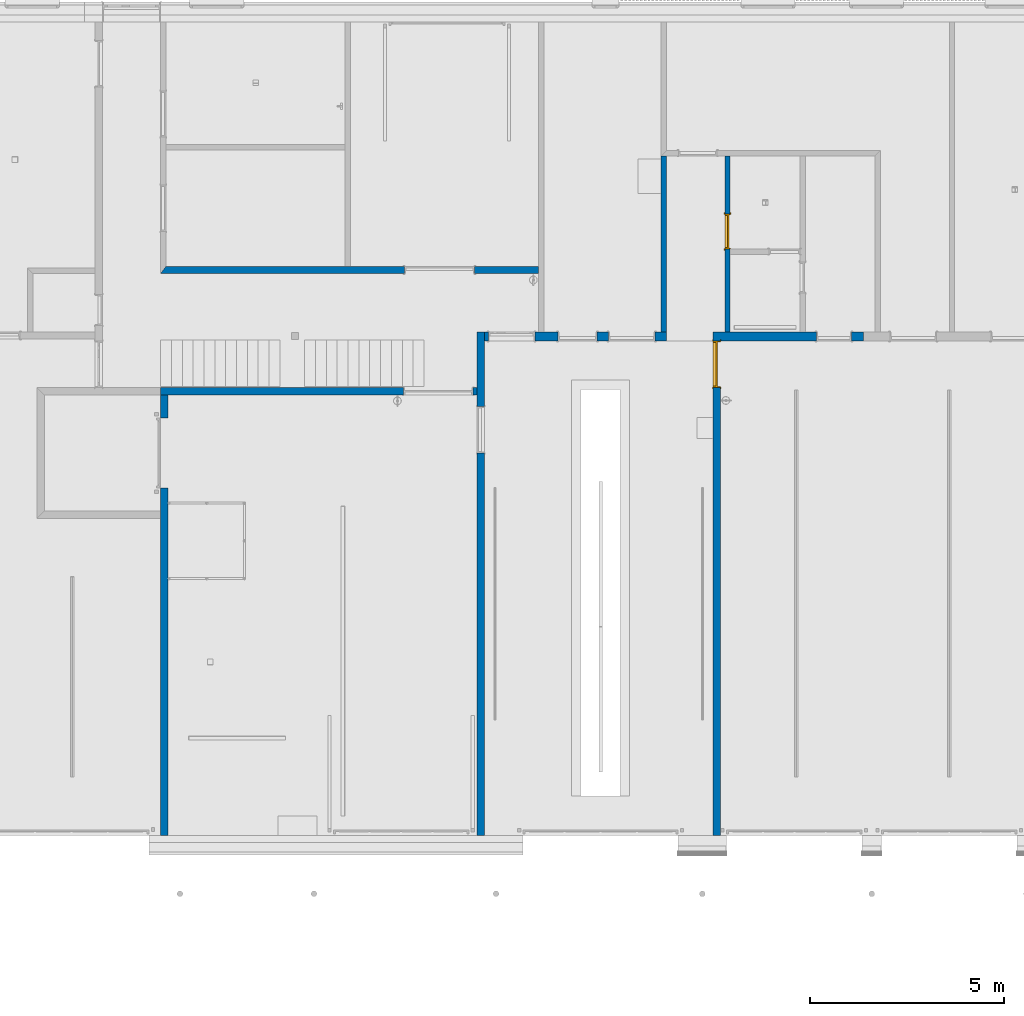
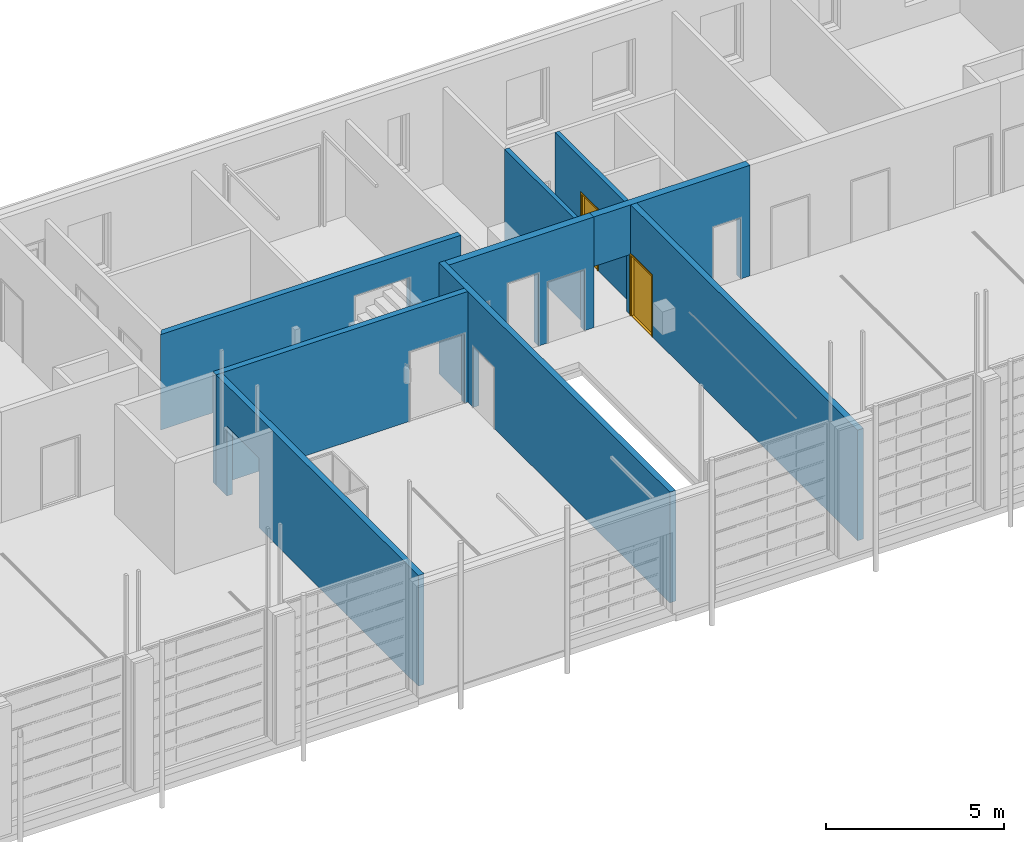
# One storey, part 9 of 112: 9 walls, 2 doors, 11 openings.
"""IFC2X3 building model written with IfcOpenShell, lengths in millimetres."""

from ifc_helpers import new_model, entity, si_unit, converted_unit, derived_unit, money_unit, direction, frame, origin_with_axes, origin_2d_with_axis, place, context, subcontext, project, spatial, polyline, rectangle, outline, extrude, faceted_brep, source, transform, mapped, material, layer, layer_set, layer_usage, type_object, element, fill, save


model = new_model("IFC2X3")

# Units and contexts
model_context = context("Model", 3, precision=0.01, world=origin_with_axes(), true_north=direction((0.0, 1.0)))
body_context = subcontext(model_context, "Body", "Model", "MODEL_VIEW")
ifc_project = project(units=[si_unit("LENGTHUNIT", "METRE", prefix="MILLI"), si_unit("AREAUNIT", "SQUARE_METRE"), si_unit("VOLUMEUNIT", "CUBIC_METRE"), converted_unit("PLANEANGLEUNIT", "DEGREE", entity("IfcPlaneAngleMeasure", 0.0174532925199), si_unit("PLANEANGLEUNIT", "RADIAN"), dimensions=[0, 0, 0, 0, 0, 0, 0]), si_unit("SOLIDANGLEUNIT", "STERADIAN"), money_unit("EUR"), converted_unit("TIMEUNIT", "Year", entity("IfcTimeMeasure", 31556926.0), si_unit("TIMEUNIT", "SECOND"), dimensions=[0, 0, 1, 0, 0, 0, 0]), si_unit("MASSUNIT", "GRAM", prefix="KILO"), si_unit("THERMODYNAMICTEMPERATUREUNIT", "DEGREE_CELSIUS"), si_unit("LUMINOUSINTENSITYUNIT", "LUMEN"), si_unit("ENERGYUNIT", "JOULE", prefix="MEGA"), derived_unit("THERMALCONDUCTANCEUNIT", [(si_unit("POWERUNIT", "WATT"), 1), (si_unit("LENGTHUNIT", "METRE"), -1), (si_unit("THERMODYNAMICTEMPERATUREUNIT", "KELVIN"), -1)]), derived_unit("SPECIFICHEATCAPACITYUNIT", [(si_unit("ENERGYUNIT", "JOULE"), 1), (si_unit("MASSUNIT", "GRAM", prefix="KILO"), -1), (si_unit("THERMODYNAMICTEMPERATUREUNIT", "KELVIN"), -1)]), derived_unit("MASSDENSITYUNIT", [(si_unit("MASSUNIT", "GRAM", prefix="KILO"), 1), (si_unit("VOLUMEUNIT", "CUBIC_METRE"), -1)])], contexts=[model_context])

# Site, building, storey
site_placement = place(None, origin_with_axes())
site = spatial("IfcSite", under=ifc_project, at=site_placement, Name="Politse- ja Piirivalveameti ning Päästeameti ühishoone", CompositionType="ELEMENT")
building_placement = place(site_placement, origin_with_axes())
building = spatial("IfcBuilding", under=site, at=building_placement, Name="Politse- ja Piirivalveameti ning Päästeameti ühishoone", CompositionType="ELEMENT")
storey_placement = place(building_placement, origin_with_axes())
storey = spatial("IfcBuildingStorey", under=building, at=storey_placement, Name="Esimene korrus", CompositionType="ELEMENT", Elevation=0.0)

# Wall, opening
ifc_material = material(Name="KON-05_Betoon Plokk - Konstuktsioon")
ifc_layer_1 = layer(ifc_material, 190.0, ventilated="UNKNOWN")
ifc_layer_set_1 = layer_set([ifc_layer_1], Name="SS-03_Sisesein 190")
ifc_layer_usage_1 = layer_usage(ifc_layer_set_1, "AXIS2", "POSITIVE", -190.0)
wall_type_1 = type_object("IfcWallType", Name="SS-03_Sisesein 190 190", PredefinedType="NOTDEFINED")
wall_1_placement = place(storey_placement, frame((26759.7008828, 13000.0198611, 0.0), z_axis=(0.0, 0.0, 1.0), x_axis=(0.0, -1.0, 0.0)))
wall_1 = element("IfcWallStandardCase", 1, at=wall_1_placement, inside=storey, type_object=wall_type_1, material=ifc_layer_usage_1, Name="SS-03", context=body_context, shape_type="SweptSolid", body=[
    extrude(outline(polyline([(0.0, -190.0), (13000.0198611, -190.0), (13000.0198611, 0.0), (0.0, 0.0), (0.0, -190.0)])), origin_with_axes(), (0.0, 0.0, 1.0), 3800.0),
])
opening_1_placement = place(wall_1_placement, frame((2530.0, 0.0, 0.0), z_axis=(0.0, 0.0, 1.0), x_axis=(1.0, 0.0, 0.0)))
element("IfcOpeningElement", 2, at=opening_1_placement, cuts=wall_1, Name="TU-01-2", context=body_context, shape_type="SweptSolid", body=[
    extrude(rectangle(XDim=1200.0, YDim=2100.0, at=origin_2d_with_axis()), frame((0.0, 190.0, 1050.0), z_axis=(0.0, -1.0, 0.0), x_axis=(-1.0, 0.0, 0.0)), (0.0, 0.0, 1.0), 570.0),
    extrude(rectangle(XDim=1274.0, YDim=2137.0, at=origin_2d_with_axis()), frame((0.0, 0.0, 1068.5), z_axis=(0.0, -1.0, 0.0), x_axis=(-1.0, 0.0, 0.0)), (0.0, 0.0, -1.0), 190.0),
    extrude(rectangle(XDim=1274.0, YDim=2137.0, at=origin_2d_with_axis()), frame((0.0, -190.0, 1068.5), z_axis=(0.0, 1.0, 0.0), x_axis=(-1.0, 0.0, 0.0)), (0.0, 0.0, -1.0), 190.0),
])

ifc_layer_usage_2 = layer_usage(ifc_layer_set_1, "AXIS2", "NEGATIVE", 190.0)
wall_2_placement = place(storey_placement, frame((18400.0881112, 14500.0421528, 0.0), z_axis=(0.0, 0.0, 1.0), x_axis=(1.0, 0.0, 0.0)))
wall_2 = element("IfcWallStandardCase", 3, at=wall_2_placement, inside=storey, type_object=wall_type_1, material=ifc_layer_usage_2, Name="SS-03", context=body_context, shape_type="SweptSolid", body=[
    extrude(outline(polyline([(0.0, 0.0), (9760.41491172, 0.0), (9760.41491172, 190.0), (140.0, 190.0), (0.0, 0.0)])), origin_with_axes(), (0.0, 0.0, 1.0), 3280.0),
])
opening_2_placement = place(wall_2_placement, frame((7199.61277161, 0.0, 0.0), z_axis=(0.0, 0.0, 1.0), x_axis=(1.0, 0.0, 0.0)))
element("IfcOpeningElement", 4, at=opening_2_placement, cuts=wall_2, Name="TU-01-13", context=body_context, shape_type="SweptSolid", body=[
    extrude(rectangle(XDim=1800.0, YDim=2400.0, at=origin_2d_with_axis()), frame((0.0, -190.0, 1200.0), z_axis=(0.0, -1.0, 0.0), x_axis=(-1.0, 0.0, 0.0)), (0.0, 0.0, -1.0), 570.0),
    extrude(rectangle(XDim=1874.0, YDim=2437.0, at=origin_2d_with_axis()), frame((0.0, 0.0, 1218.5), z_axis=(0.0, -1.0, 0.0), x_axis=(-1.0, 0.0, 0.0)), (0.0, 0.0, 1.0), 190.0),
    extrude(rectangle(XDim=1874.0, YDim=2437.0, at=origin_2d_with_axis()), frame((0.0, 190.0, 1218.5), z_axis=(0.0, 1.0, 0.0), x_axis=(-1.0, 0.0, 0.0)), (0.0, 0.0, 1.0), 190.0),
])

ifc_layer_usage_3 = layer_usage(ifc_layer_set_1, "AXIS2", "POSITIVE", -190.0)
wall_3_placement = place(storey_placement, frame((18400.0881112, 11560.0198611, 0.0), z_axis=(0.0, 0.0, 1.0), x_axis=(1.0, 0.0, 0.0)))
wall_3 = element("IfcWallStandardCase", 5, at=wall_3_placement, inside=storey, type_object=wall_type_1, material=ifc_layer_usage_3, Name="SS-03", context=body_context, shape_type="SweptSolid", body=[
    extrude(outline(polyline([(0.0, -190.0), (8169.61277161, -190.0), (8169.61277161, 0.0), (0.0, 0.0), (0.0, -190.0)])), origin_with_axes(), (0.0, 0.0, 1.0), 3800.0),
])
opening_3_placement = place(wall_3_placement, frame((7169.61277161, 0.0, 0.0), z_axis=(0.0, 0.0, 1.0), x_axis=(1.0, 0.0, 0.0)))
element("IfcOpeningElement", 6, at=opening_3_placement, cuts=wall_3, Name="TU-01-13", context=body_context, shape_type="SweptSolid", body=[
    extrude(rectangle(XDim=1800.0, YDim=2400.0, at=origin_2d_with_axis()), frame((0.0, 190.0, 1200.0), z_axis=(0.0, 1.0, 0.0), x_axis=(-1.0, 0.0, 0.0)), (0.0, 0.0, -1.0), 570.0),
    extrude(rectangle(XDim=1874.0, YDim=2437.0, at=origin_2d_with_axis()), frame((0.0, 0.0, 1218.5), z_axis=(0.0, 1.0, 0.0), x_axis=(-1.0, 0.0, 0.0)), (0.0, 0.0, 1.0), 190.0),
    extrude(rectangle(XDim=1874.0, YDim=2437.0, at=origin_2d_with_axis()), frame((0.0, -190.0, 1218.5), z_axis=(0.0, -1.0, 0.0), x_axis=(-1.0, 0.0, 0.0)), (0.0, 0.0, 1.0), 190.0),
])

# Wall, opening, door
ifc_layer_usage_4 = layer_usage(ifc_layer_set_1, "AXIS2", "POSITIVE", -95.0)
wall_4_placement = place(storey_placement, frame((32759.7100495, 13000.0198611, 0.0), z_axis=(0.0, 0.0, 1.0), x_axis=(0.0, -1.0, 0.0)))
wall_4 = element("IfcWallStandardCase", 7, at=wall_4_placement, inside=storey, type_object=wall_type_1, material=ifc_layer_usage_4, Name="SS-03", context=body_context, shape_type="SweptSolid", body=[
    extrude(outline(polyline([(240.0, -95.0), (13000.0198611, -95.0), (13000.0198611, 95.0), (240.0, 95.0), (240.0, -95.0)])), origin_with_axes(), (0.0, 0.0, 1.0), 3800.0),
])
opening_4_placement = place(wall_4_placement, frame((840.0, 0.0, 0.0), z_axis=(0.0, 0.0, 1.0), x_axis=(1.0, 0.0, 0.0)))
opening_4 = element("IfcOpeningElement", 8, at=opening_4_placement, cuts=wall_4, Name="SU-01-8", context=body_context, shape_type="SweptSolid", body=[
    extrude(rectangle(XDim=1200.0, YDim=2100.0, at=origin_2d_with_axis()), frame((0.0, 190.0, 1050.0), z_axis=(0.0, -1.0, 0.0), x_axis=(1.0, 0.0, 0.0)), (0.0, 0.0, 1.0), 570.0),
    extrude(rectangle(XDim=1274.0, YDim=2137.0, at=origin_2d_with_axis()), frame((0.0, 95.0, 1068.5), z_axis=(0.0, -1.0, 0.0), x_axis=(1.0, 0.0, 0.0)), (0.0, 0.0, -1.0), 190.0),
    extrude(rectangle(XDim=1274.0, YDim=2137.0, at=origin_2d_with_axis()), frame((0.0, -95.0, 1068.5), z_axis=(0.0, 1.0, 0.0), x_axis=(1.0, 0.0, 0.0)), (0.0, 0.0, -1.0), 190.0),
])
door_style_1 = type_object("IfcDoorStyle", Name="Double Door Asymmetric 23", ConstructionType="NOTDEFINED", OperationType="DOUBLE_DOOR_SINGLE_SWING", ParameterTakesPrecedence=False, Sizeable=False)
shared_shape_1 = source(origin_with_axes(), body_context, "Body", "Brep", [
    faceted_brep([(560.0, -115.0, 0.0), (560.0, -40.0, 0.0), (560.0, -40.0, 12.0), (560.0, -115.0, 12.0), (-560.0, -115.0, 0.0), (-560.0, -40.0, 0.0), (-572.0, -40.0, 0.0), (572.0, -40.0, 0.0), (572.0, -40.0, 12.0), (-572.0, -40.0, 12.0), (-560.0, -40.0, 12.0), (-560.0, -115.0, 12.0)], [[[0, 1, 2, 3]], [[0, 4, 5, 6, 7, 1]], [[1, 7, 8, 2]], [[3, 2, 8, 9, 10, 11]], [[4, 0, 3, 11]], [[5, 4, 11, 10]], [[6, 5, 10, 9]], [[7, 6, 9, 8]]]),
    faceted_brep([(-600.0, 0.0, 0.0), (-600.0, 75.0, 0.0), (-575.0, 75.0, 0.0), (-575.0, 0.0, 0.0), (-600.0, 0.0, 2100.0), (-600.0, 75.0, 2100.0), (-575.0, 75.0, 2075.0), (-575.0, 0.0, 2075.0)], [[[0, 1, 2, 3]], [[4, 5, 1, 0]], [[1, 5, 6, 2]], [[3, 2, 6, 7]], [[0, 3, 7, 4]], [[7, 6, 5, 4]]]),
    faceted_brep([(600.0, 0.0, 2100.0), (600.0, 75.0, 2100.0), (575.0, 75.0, 2075.0), (575.0, 0.0, 2075.0), (600.0, 0.0, 0.0), (600.0, 75.0, 0.0), (575.0, 75.0, 0.0), (575.0, 0.0, 0.0)], [[[0, 1, 2, 3]], [[4, 5, 1, 0]], [[1, 5, 6, 2]], [[3, 2, 6, 7]], [[0, 3, 7, 4]], [[7, 6, 5, 4]]]),
    faceted_brep([(-575.0, 0.0, 2075.0), (-575.0, 75.0, 2075.0), (575.0, 75.0, 2075.0), (575.0, 0.0, 2075.0), (-600.0, 0.0, 2100.0), (-600.0, 75.0, 2100.0), (600.0, 75.0, 2100.0), (600.0, 0.0, 2100.0)], [[[0, 1, 2, 3]], [[4, 5, 1, 0]], [[1, 5, 6, 2]], [[3, 2, 6, 7]], [[0, 3, 7, 4]], [[7, 6, 5, 4]]]),
    faceted_brep([(-637.0, 94.0, 0.0), (-587.0, 94.0, 0.0), (-587.0, 75.0, 0.0), (-637.0, 75.0, 0.0), (-637.0, 94.0, 2137.0), (-587.0, 94.0, 2087.0), (-587.0, 75.0, 2087.0), (-637.0, 75.0, 2137.0)], [[[0, 1, 2, 3]], [[0, 4, 5, 1]], [[1, 5, 6, 2]], [[3, 2, 6, 7]], [[4, 0, 3, 7]], [[5, 4, 7, 6]]]),
    faceted_brep([(637.0, 94.0, 2137.0), (587.0, 94.0, 2087.0), (587.0, 75.0, 2087.0), (637.0, 75.0, 2137.0), (637.0, 94.0, 0.0), (587.0, 94.0, 0.0), (587.0, 75.0, 0.0), (637.0, 75.0, 0.0)], [[[0, 1, 2, 3]], [[0, 4, 5, 1]], [[1, 5, 6, 2]], [[3, 2, 6, 7]], [[4, 0, 3, 7]], [[5, 4, 7, 6]]]),
    faceted_brep([(-637.0, 94.0, 2137.0), (-587.0, 94.0, 2087.0), (-587.0, 75.0, 2087.0), (-637.0, 75.0, 2137.0), (637.0, 94.0, 2137.0), (587.0, 94.0, 2087.0), (587.0, 75.0, 2087.0), (637.0, 75.0, 2137.0)], [[[0, 1, 2, 3]], [[0, 4, 5, 1]], [[1, 5, 6, 2]], [[3, 2, 6, 7]], [[4, 0, 3, 7]], [[5, 4, 7, 6]]]),
    faceted_brep([(-637.0, -134.0, 0.0), (-637.0, -115.0, 0.0), (-587.0, -115.0, 0.0), (-587.0, -134.0, 0.0), (-637.0, -134.0, 2137.0), (-637.0, -115.0, 2137.0), (-587.0, -115.0, 2087.0), (-587.0, -134.0, 2087.0)], [[[0, 1, 2, 3]], [[4, 5, 1, 0]], [[1, 5, 6, 2]], [[3, 2, 6, 7]], [[0, 3, 7, 4]], [[7, 6, 5, 4]]]),
    faceted_brep([(637.0, -134.0, 2137.0), (637.0, -115.0, 2137.0), (587.0, -115.0, 2087.0), (587.0, -134.0, 2087.0), (637.0, -134.0, 0.0), (637.0, -115.0, 0.0), (587.0, -115.0, 0.0), (587.0, -134.0, 0.0)], [[[0, 1, 2, 3]], [[4, 5, 1, 0]], [[1, 5, 6, 2]], [[3, 2, 6, 7]], [[0, 3, 7, 4]], [[7, 6, 5, 4]]]),
    faceted_brep([(-637.0, -134.0, 2137.0), (-637.0, -115.0, 2137.0), (-587.0, -115.0, 2087.0), (-587.0, -134.0, 2087.0), (637.0, -134.0, 2137.0), (637.0, -115.0, 2137.0), (587.0, -115.0, 2087.0), (587.0, -134.0, 2087.0)], [[[0, 1, 2, 3]], [[4, 5, 1, 0]], [[1, 5, 6, 2]], [[3, 2, 6, 7]], [[0, 3, 7, 4]], [[7, 6, 5, 4]]]),
    faceted_brep([(-560.0, -40.0, 0.0), (-560.0, -40.0, 2060.0), (-560.0, -115.0, 2060.0), (-560.0, -115.0, 0.0), (-572.0, -40.0, 2060.0), (-572.0, -40.0, 0.0), (-572.0, 0.0, 2060.0), (-600.0, 0.0, 2060.0), (-600.0, -115.0, 2060.0), (-600.0, -115.0, 0.0), (-600.0, 0.0, 0.0), (-572.0, 0.0, 0.0)], [[[0, 1, 2, 3]], [[4, 1, 0, 5]], [[4, 6, 7, 8, 2, 1]], [[3, 2, 8, 9]], [[5, 0, 3, 9, 10, 11]], [[6, 4, 5, 11]], [[6, 11, 10, 7]], [[10, 9, 8, 7]]]),
    faceted_brep([(572.0, -40.0, 2060.0), (560.0, -40.0, 2060.0), (560.0, -115.0, 2060.0), (600.0, -115.0, 2060.0), (600.0, 0.0, 2060.0), (572.0, 0.0, 2060.0), (572.0, -40.0, 0.0), (560.0, -40.0, 0.0), (560.0, -115.0, 0.0), (600.0, -115.0, 0.0), (600.0, 0.0, 0.0), (572.0, 0.0, 0.0)], [[[0, 1, 2, 3, 4, 5]], [[1, 0, 6, 7]], [[1, 7, 8, 2]], [[3, 2, 8, 9]], [[4, 3, 9, 10]], [[11, 5, 4, 10]], [[0, 5, 11, 6]], [[6, 11, 10, 9, 8, 7]]]),
    faceted_brep([(-572.0, 0.0, 2072.0), (-572.0, 0.0, 2060.0), (-600.0, 0.0, 2060.0), (-600.0, 0.0, 2100.0), (600.0, 0.0, 2100.0), (600.0, 0.0, 2060.0), (572.0, 0.0, 2060.0), (572.0, 0.0, 2072.0), (-572.0, -40.0, 2072.0), (-572.0, -40.0, 2060.0), (-560.0, -40.0, 2060.0), (-560.0, -115.0, 2060.0), (-600.0, -115.0, 2060.0), (-600.0, -115.0, 2100.0), (600.0, -115.0, 2100.0), (600.0, -115.0, 2060.0), (572.0, -40.0, 2060.0), (560.0, -115.0, 2060.0), (560.0, -40.0, 2060.0), (572.0, -40.0, 2072.0)], [[[0, 1, 2, 3, 4, 5, 6, 7]], [[1, 0, 8, 9]], [[9, 10, 11, 12, 2, 1]], [[2, 12, 13, 3]], [[3, 13, 14, 4]], [[4, 14, 15, 5]], [[16, 6, 5, 15, 17, 18]], [[7, 6, 16, 19]], [[0, 7, 19, 8]], [[16, 18, 10, 9, 8, 19]], [[10, 18, 17, 11]], [[17, 15, 14, 13, 12, 11]]]),
    faceted_brep([(572.0, 0.0, 0.0), (572.0, -40.0, 0.0), (272.0, -40.0, 0.0), (272.0, 0.0, 0.0), (572.0, 0.0, 2072.0), (572.0, -40.0, 2072.0), (272.0, -40.0, 2072.0), (272.0, 0.0, 2072.0)], [[[0, 1, 2, 3]], [[4, 5, 1, 0]], [[1, 5, 6, 2]], [[3, 2, 6, 7]], [[0, 3, 7, 4]], [[7, 6, 5, 4]]]),
    faceted_brep([(-572.0, 0.0, 0.0), (272.0, 0.0, 0.0), (272.0, -40.0, 0.0), (-572.0, -40.0, 0.0), (-572.0, 0.0, 2072.0), (272.0, 0.0, 2072.0), (272.0, -40.0, 2072.0), (-572.0, -40.0, 2072.0)], [[[0, 1, 2, 3]], [[0, 4, 5, 1]], [[1, 5, 6, 2]], [[3, 2, 6, 7]], [[4, 0, 3, 7]], [[5, 4, 7, 6]]]),
])
door_1_placement = place(opening_4_placement, frame((-600.0, 0.0, 0.0), z_axis=(0.0, 0.0, 1.0), x_axis=(1.0, 0.0, 0.0)))
door_1 = element("IfcDoor", 9, at=door_1_placement, inside=storey, type_object=door_style_1, Name="SU-01-8", ObjectType="DOOR", OverallHeight=2100.0, OverallWidth=1200.0, context=body_context, shape_type="MappedRepresentation", body=[
    mapped(shared_shape_1, transform((600.0, 20.0, 0.0))),
])
fill(opening_4, door_1)

# Wall, opening
ifc_layer_usage_5 = layer_usage(ifc_layer_set_1, "AXIS2", "NEGATIVE", 190.0)
wall_5_placement = place(storey_placement, frame((18400.0881112, 11560.0198611, 0.0), z_axis=(0.0, 0.0, 1.0), x_axis=(0.0, -1.0, 0.0)))
wall_5 = element("IfcWallStandardCase", 10, at=wall_5_placement, inside=storey, type_object=wall_type_1, material=ifc_layer_usage_5, Name="SS-03", context=body_context, shape_type="SweptSolid", body=[
    extrude(outline(polyline([(190.0, 0.0), (11560.0198611, 0.0), (11560.0198611, 190.0), (190.0, 190.0), (190.0, 0.0)])), origin_with_axes(), (0.0, 0.0, 1.0), 3800.0),
])
opening_5_placement = place(wall_5_placement, frame((1689.87986678, 0.0, 0.0), z_axis=(0.0, 0.0, 1.0), x_axis=(1.0, 0.0, 0.0)))
element("IfcOpeningElement", 11, at=opening_5_placement, cuts=wall_5, Name="TV-06", context=body_context, shape_type="SweptSolid", body=[
    extrude(rectangle(XDim=1800.0, YDim=2400.0, at=origin_2d_with_axis()), frame((0.0, -10.0, 1200.0), z_axis=(0.0, -1.0, 0.0), x_axis=(1.0, 0.0, 0.0)), (0.0, 0.0, -1.0), 390.0),
    extrude(outline(polyline([(-900.0, 4800.0), (-900.0, 2400.0), (900.0, 2400.0), (900.0, 4800.0), (-900.0, 4800.0)])), frame((0.0, -60.0, 0.0), z_axis=(0.0, -1.0, 0.0), x_axis=(1.0, 0.0, 0.0)), (0.0, 0.0, 1.0), 45.0),
    extrude(rectangle(XDim=1800.0, YDim=2400.0, at=origin_2d_with_axis()), frame((0.0, -10.0, 1200.0), z_axis=(0.0, 1.0, 0.0), x_axis=(1.0, 0.0, 0.0)), (0.0, 0.0, -1.0), 200.0),
])

# Wall, openings
ifc_layer_2 = layer(ifc_material, 240.0, ventilated="UNKNOWN")
ifc_layer_set_2 = layer_set([ifc_layer_2], Name="SS-04_Sisesein 240")
ifc_layer_usage_6 = layer_usage(ifc_layer_set_2, "AXIS2", "NEGATIVE", 0.0)
wall_type_2 = type_object("IfcWallType", Name="SS-04_Sisesein 240 240", PredefinedType="NOTDEFINED")
wall_6_placement = place(storey_placement, frame((26759.7008828, 13000.0198611, 0.0), z_axis=(0.0, 0.0, 1.0), x_axis=(1.0, 0.0, 0.0)))
wall_6 = element("IfcWallStandardCase", 12, at=wall_6_placement, inside=storey, type_object=wall_type_2, material=ifc_layer_usage_6, Name="SS-04", context=body_context, shape_type="SweptSolid", body=[
    extrude(outline(polyline([(0.0, -240.0), (4705.00916667, -240.0), (4705.00916667, 0.0), (0.0, 0.0), (0.0, -240.0)])), origin_with_axes(), (0.0, 0.0, 1.0), 3800.0),
])
opening_6_placement = place(wall_6_placement, frame((699.995165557, 0.0, 0.0), z_axis=(0.0, 0.0, 1.0), x_axis=(1.0, 0.0, 0.0)))
element("IfcOpeningElement", 13, at=opening_6_placement, cuts=wall_6, Name="TU-01-1", context=body_context, shape_type="SweptSolid", body=[
    extrude(rectangle(XDim=1200.0, YDim=2100.0, at=origin_2d_with_axis()), frame((0.0, -240.0, 1050.0), z_axis=(0.0, -1.0, 0.0), x_axis=(-1.0, 0.0, 0.0)), (0.0, 0.0, -1.0), 720.0),
    extrude(rectangle(XDim=1274.0, YDim=2137.0, at=origin_2d_with_axis()), frame((0.0, -240.0, 1068.5), z_axis=(0.0, -1.0, 0.0), x_axis=(-1.0, 0.0, 0.0)), (0.0, 0.0, 1.0), 240.0),
    extrude(rectangle(XDim=1274.0, YDim=2137.0, at=origin_2d_with_axis()), frame((0.0, 0.0, 1068.5), z_axis=(0.0, 1.0, 0.0), x_axis=(-1.0, 0.0, 0.0)), (0.0, 0.0, 1.0), 240.0),
])
opening_7_placement = place(wall_6_placement, frame((3805.23795516, 0.0, 0.0), z_axis=(0.0, 0.0, 1.0), x_axis=(1.0, 0.0, 0.0)))
element("IfcOpeningElement", 14, at=opening_7_placement, cuts=wall_6, Name="TU-01-2", context=body_context, shape_type="SweptSolid", body=[
    extrude(rectangle(XDim=1200.0, YDim=2100.0, at=origin_2d_with_axis()), frame((0.0, 240.0, 1050.0), z_axis=(0.0, -1.0, 0.0), x_axis=(-1.0, 0.0, 0.0)), (0.0, 0.0, 1.0), 720.0),
    extrude(rectangle(XDim=1274.0, YDim=2137.0, at=origin_2d_with_axis()), frame((0.0, 0.0, 1068.5), z_axis=(0.0, -1.0, 0.0), x_axis=(-1.0, 0.0, 0.0)), (0.0, 0.0, -1.0), 240.0),
    extrude(rectangle(XDim=1274.0, YDim=2137.0, at=origin_2d_with_axis()), frame((0.0, -240.0, 1068.5), z_axis=(0.0, 1.0, 0.0), x_axis=(-1.0, 0.0, 0.0)), (0.0, 0.0, -1.0), 240.0),
])
opening_8_placement = place(wall_6_placement, frame((2404.80595956, 0.0, 0.0), z_axis=(0.0, 0.0, 1.0), x_axis=(1.0, 0.0, 0.0)))
element("IfcOpeningElement", 15, at=opening_8_placement, cuts=wall_6, Name="TU-01-12", context=body_context, shape_type="SweptSolid", body=[
    extrude(rectangle(XDim=1000.0, YDim=2500.0, at=origin_2d_with_axis()), frame((0.0, 240.0, 1250.0), z_axis=(0.0, -1.0, 0.0), x_axis=(-1.0, 0.0, 0.0)), (0.0, 0.0, 1.0), 720.0),
    extrude(rectangle(XDim=1074.0, YDim=2537.0, at=origin_2d_with_axis()), frame((0.0, 0.0, 1268.5), z_axis=(0.0, -1.0, 0.0), x_axis=(-1.0, 0.0, 0.0)), (0.0, 0.0, -1.0), 240.0),
    extrude(rectangle(XDim=1074.0, YDim=2537.0, at=origin_2d_with_axis()), frame((0.0, -240.0, 1268.5), z_axis=(0.0, 1.0, 0.0), x_axis=(-1.0, 0.0, 0.0)), (0.0, 0.0, -1.0), 240.0),
])

ifc_layer_usage_7 = layer_usage(ifc_layer_set_2, "AXIS2", "NEGATIVE", 0.0)
wall_7_placement = place(storey_placement, frame((31464.7100495, 13000.0198611, 0.0), z_axis=(0.0, 0.0, 1.0), x_axis=(1.0, 0.0, 0.0)))
wall_7 = element("IfcWallStandardCase", 16, at=wall_7_placement, inside=storey, type_object=wall_type_2, material=ifc_layer_usage_7, Name="SS-04", context=body_context, shape_type="SweptSolid", body=[
    extrude(outline(polyline([(0.0, -240.0), (5079.90466033, -240.0), (5079.90466033, 0.0), (0.0, 0.0), (0.0, -240.0)])), origin_with_axes(), (0.0, 0.0, 1.0), 3800.0),
])
opening_9_placement = place(wall_7_placement, frame((600.0, 0.0, 0.0), z_axis=(0.0, 0.0, 1.0), x_axis=(1.0, 0.0, 0.0)))
element("IfcOpeningElement", 17, at=opening_9_placement, cuts=wall_7, Name="TÜHI AVA", context=body_context, shape_type="SweptSolid", body=[
    extrude(rectangle(XDim=1200.0, YDim=2100.0, at=origin_2d_with_axis()), frame((0.0, 240.0, 1050.0), z_axis=(0.0, -1.0, 0.0), x_axis=(1.0, 0.0, 0.0)), (0.0, 0.0, 1.0), 720.0),
])
opening_10_placement = place(wall_7_placement, frame((4320.26560712, 0.0, 0.0), z_axis=(0.0, 0.0, 1.0), x_axis=(1.0, 0.0, 0.0)))
element("IfcOpeningElement", 18, at=opening_10_placement, cuts=wall_7, Name="SU-01-1", context=body_context, shape_type="SweptSolid", body=[
    extrude(rectangle(XDim=900.0, YDim=2100.0, at=origin_2d_with_axis()), frame((0.0, 240.0, 1050.0), z_axis=(0.0, 1.0, 0.0), x_axis=(1.0, 0.0, 0.0)), (0.0, 0.0, -1.0), 720.0),
    extrude(rectangle(XDim=974.0, YDim=2137.0, at=origin_2d_with_axis()), frame((0.0, 0.0, 1068.5), z_axis=(0.0, 1.0, 0.0), x_axis=(1.0, 0.0, 0.0)), (0.0, 0.0, 1.0), 240.0),
    extrude(rectangle(XDim=974.0, YDim=2137.0, at=origin_2d_with_axis()), frame((0.0, -240.0, 1068.5), z_axis=(0.0, -1.0, 0.0), x_axis=(1.0, 0.0, 0.0)), (0.0, 0.0, 1.0), 240.0),
])

# Wall, opening, door
ifc_layer_3 = layer(ifc_material, 140.0, ventilated="UNKNOWN")
ifc_layer_set_3 = layer_set([ifc_layer_3], Name="SS-02_Sisesein 140")
ifc_layer_usage_8 = layer_usage(ifc_layer_set_3, "AXIS2", "POSITIVE", 0.0)
wall_type_3 = type_object("IfcWallType", Name="SS-02_Sisesein 140 140", PredefinedType="NOTDEFINED")
wall_8_placement = place(storey_placement, frame((32964.7100495, 17540.0198611, 0.0), z_axis=(0.0, 0.0, 1.0), x_axis=(0.0, -1.0, 0.0)))
wall_8 = element("IfcWallStandardCase", 19, at=wall_8_placement, inside=storey, type_object=wall_type_3, material=ifc_layer_usage_8, Name="SS-02", context=body_context, shape_type="SweptSolid", body=[
    extrude(outline(polyline([(0.0, 0.0), (4540.0, 0.0), (4540.0, 140.0), (0.0, 140.0), (0.0, 0.0)])), origin_with_axes(), (0.0, 0.0, 1.0), 3280.0),
])
opening_11_placement = place(wall_8_placement, frame((1950.0, 0.0, 0.0), z_axis=(0.0, 0.0, 1.0), x_axis=(1.0, 0.0, 0.0)))
opening_11 = element("IfcOpeningElement", 20, at=opening_11_placement, cuts=wall_8, Name="SU-01-1", context=body_context, shape_type="SweptSolid", body=[
    extrude(rectangle(XDim=900.0, YDim=2100.0, at=origin_2d_with_axis()), frame((0.0, 140.0, 1050.0), z_axis=(0.0, -1.0, 0.0), x_axis=(1.0, 0.0, 0.0)), (0.0, 0.0, 1.0), 420.0),
    extrude(rectangle(XDim=974.0, YDim=2137.0, at=origin_2d_with_axis()), frame((0.0, 140.0, 1068.5), z_axis=(0.0, -1.0, 0.0), x_axis=(1.0, 0.0, 0.0)), (0.0, 0.0, -1.0), 140.0),
    extrude(rectangle(XDim=974.0, YDim=2137.0, at=origin_2d_with_axis()), frame((0.0, 0.0, 1068.5), z_axis=(0.0, 1.0, 0.0), x_axis=(1.0, 0.0, 0.0)), (0.0, 0.0, -1.0), 140.0),
])
door_style_2 = type_object("IfcDoorStyle", Name="Door 23", ConstructionType="NOTDEFINED", OperationType="SINGLE_SWING_RIGHT", ParameterTakesPrecedence=False, Sizeable=False)
shared_shape_2 = source(origin_with_axes(), body_context, "Body", "Brep", [
    faceted_brep([(410.0, -115.0, 0.0), (410.0, -40.0, 0.0), (410.0, -40.0, 12.0), (410.0, -115.0, 12.0), (-410.0, -115.0, 0.0), (-410.0, -40.0, 0.0), (-422.0, -40.0, 0.0), (422.0, -40.0, 0.0), (422.0, -40.0, 12.0), (-422.0, -40.0, 12.0), (-410.0, -40.0, 12.0), (-410.0, -115.0, 12.0)], [[[0, 1, 2, 3]], [[0, 4, 5, 6, 7, 1]], [[1, 7, 8, 2]], [[3, 2, 8, 9, 10, 11]], [[4, 0, 3, 11]], [[5, 4, 11, 10]], [[6, 5, 10, 9]], [[7, 6, 9, 8]]]),
    faceted_brep([(-450.0, 0.0, 0.0), (-450.0, 25.0, 0.0), (-425.0, 25.0, 0.0), (-425.0, 0.0, 0.0), (-450.0, 0.0, 2100.0), (-450.0, 25.0, 2100.0), (-425.0, 25.0, 2075.0), (-425.0, 0.0, 2075.0)], [[[0, 1, 2, 3]], [[4, 5, 1, 0]], [[1, 5, 6, 2]], [[3, 2, 6, 7]], [[0, 3, 7, 4]], [[7, 6, 5, 4]]]),
    faceted_brep([(450.0, 0.0, 2100.0), (450.0, 25.0, 2100.0), (425.0, 25.0, 2075.0), (425.0, 0.0, 2075.0), (450.0, 0.0, 0.0), (450.0, 25.0, 0.0), (425.0, 25.0, 0.0), (425.0, 0.0, 0.0)], [[[0, 1, 2, 3]], [[4, 5, 1, 0]], [[1, 5, 6, 2]], [[3, 2, 6, 7]], [[0, 3, 7, 4]], [[7, 6, 5, 4]]]),
    faceted_brep([(-425.0, 0.0, 2075.0), (-425.0, 25.0, 2075.0), (425.0, 25.0, 2075.0), (425.0, 0.0, 2075.0), (-450.0, 0.0, 2100.0), (-450.0, 25.0, 2100.0), (450.0, 25.0, 2100.0), (450.0, 0.0, 2100.0)], [[[0, 1, 2, 3]], [[4, 5, 1, 0]], [[1, 5, 6, 2]], [[3, 2, 6, 7]], [[0, 3, 7, 4]], [[7, 6, 5, 4]]]),
    faceted_brep([(-487.0, 44.0, 0.0), (-437.0, 44.0, 0.0), (-437.0, 25.0, 0.0), (-487.0, 25.0, 0.0), (-487.0, 44.0, 2137.0), (-437.0, 44.0, 2087.0), (-437.0, 25.0, 2087.0), (-487.0, 25.0, 2137.0)], [[[0, 1, 2, 3]], [[0, 4, 5, 1]], [[1, 5, 6, 2]], [[3, 2, 6, 7]], [[4, 0, 3, 7]], [[5, 4, 7, 6]]]),
    faceted_brep([(487.0, 44.0, 2137.0), (437.0, 44.0, 2087.0), (437.0, 25.0, 2087.0), (487.0, 25.0, 2137.0), (487.0, 44.0, 0.0), (437.0, 44.0, 0.0), (437.0, 25.0, 0.0), (487.0, 25.0, 0.0)], [[[0, 1, 2, 3]], [[0, 4, 5, 1]], [[1, 5, 6, 2]], [[3, 2, 6, 7]], [[4, 0, 3, 7]], [[5, 4, 7, 6]]]),
    faceted_brep([(-487.0, 44.0, 2137.0), (-437.0, 44.0, 2087.0), (-437.0, 25.0, 2087.0), (-487.0, 25.0, 2137.0), (487.0, 44.0, 2137.0), (437.0, 44.0, 2087.0), (437.0, 25.0, 2087.0), (487.0, 25.0, 2137.0)], [[[0, 1, 2, 3]], [[0, 4, 5, 1]], [[1, 5, 6, 2]], [[3, 2, 6, 7]], [[4, 0, 3, 7]], [[5, 4, 7, 6]]]),
    faceted_brep([(-487.0, -134.0, 0.0), (-487.0, -115.0, 0.0), (-437.0, -115.0, 0.0), (-437.0, -134.0, 0.0), (-487.0, -134.0, 2137.0), (-487.0, -115.0, 2137.0), (-437.0, -115.0, 2087.0), (-437.0, -134.0, 2087.0)], [[[0, 1, 2, 3]], [[4, 5, 1, 0]], [[1, 5, 6, 2]], [[3, 2, 6, 7]], [[0, 3, 7, 4]], [[7, 6, 5, 4]]]),
    faceted_brep([(487.0, -134.0, 2137.0), (487.0, -115.0, 2137.0), (437.0, -115.0, 2087.0), (437.0, -134.0, 2087.0), (487.0, -134.0, 0.0), (487.0, -115.0, 0.0), (437.0, -115.0, 0.0), (437.0, -134.0, 0.0)], [[[0, 1, 2, 3]], [[4, 5, 1, 0]], [[1, 5, 6, 2]], [[3, 2, 6, 7]], [[0, 3, 7, 4]], [[7, 6, 5, 4]]]),
    faceted_brep([(-487.0, -134.0, 2137.0), (-487.0, -115.0, 2137.0), (-437.0, -115.0, 2087.0), (-437.0, -134.0, 2087.0), (487.0, -134.0, 2137.0), (487.0, -115.0, 2137.0), (437.0, -115.0, 2087.0), (437.0, -134.0, 2087.0)], [[[0, 1, 2, 3]], [[4, 5, 1, 0]], [[1, 5, 6, 2]], [[3, 2, 6, 7]], [[0, 3, 7, 4]], [[7, 6, 5, 4]]]),
    faceted_brep([(-410.0, -40.0, 0.0), (-410.0, -40.0, 2060.0), (-410.0, -115.0, 2060.0), (-410.0, -115.0, 0.0), (-422.0, -40.0, 2060.0), (-422.0, -40.0, 0.0), (-422.0, 0.0, 2060.0), (-450.0, 0.0, 2060.0), (-450.0, -115.0, 2060.0), (-450.0, -115.0, 0.0), (-450.0, 0.0, 0.0), (-422.0, 0.0, 0.0)], [[[0, 1, 2, 3]], [[4, 1, 0, 5]], [[4, 6, 7, 8, 2, 1]], [[3, 2, 8, 9]], [[5, 0, 3, 9, 10, 11]], [[6, 4, 5, 11]], [[6, 11, 10, 7]], [[10, 9, 8, 7]]]),
    faceted_brep([(422.0, -40.0, 2060.0), (410.0, -40.0, 2060.0), (410.0, -115.0, 2060.0), (450.0, -115.0, 2060.0), (450.0, 0.0, 2060.0), (422.0, 0.0, 2060.0), (422.0, -40.0, 0.0), (410.0, -40.0, 0.0), (410.0, -115.0, 0.0), (450.0, -115.0, 0.0), (450.0, 0.0, 0.0), (422.0, 0.0, 0.0)], [[[0, 1, 2, 3, 4, 5]], [[1, 0, 6, 7]], [[1, 7, 8, 2]], [[3, 2, 8, 9]], [[4, 3, 9, 10]], [[11, 5, 4, 10]], [[0, 5, 11, 6]], [[6, 11, 10, 9, 8, 7]]]),
    faceted_brep([(-422.0, 0.0, 2072.0), (-422.0, 0.0, 2060.0), (-450.0, 0.0, 2060.0), (-450.0, 0.0, 2100.0), (450.0, 0.0, 2100.0), (450.0, 0.0, 2060.0), (422.0, 0.0, 2060.0), (422.0, 0.0, 2072.0), (-422.0, -40.0, 2072.0), (-422.0, -40.0, 2060.0), (-410.0, -40.0, 2060.0), (-410.0, -115.0, 2060.0), (-450.0, -115.0, 2060.0), (-450.0, -115.0, 2100.0), (450.0, -115.0, 2100.0), (450.0, -115.0, 2060.0), (422.0, -40.0, 2060.0), (410.0, -115.0, 2060.0), (410.0, -40.0, 2060.0), (422.0, -40.0, 2072.0)], [[[0, 1, 2, 3, 4, 5, 6, 7]], [[1, 0, 8, 9]], [[9, 10, 11, 12, 2, 1]], [[2, 12, 13, 3]], [[3, 13, 14, 4]], [[4, 14, 15, 5]], [[16, 6, 5, 15, 17, 18]], [[7, 6, 16, 19]], [[0, 7, 19, 8]], [[16, 18, 10, 9, 8, 19]], [[10, 18, 17, 11]], [[17, 15, 14, 13, 12, 11]]]),
    faceted_brep([(422.0, 0.0, 0.0), (422.0, -40.0, 0.0), (-422.0, -40.0, 0.0), (-422.0, 0.0, 0.0), (422.0, 0.0, 2072.0), (422.0, -40.0, 2072.0), (-422.0, -40.0, 2072.0), (-422.0, 0.0, 2072.0)], [[[0, 1, 2, 3]], [[4, 5, 1, 0]], [[1, 5, 6, 2]], [[3, 2, 6, 7]], [[0, 3, 7, 4]], [[7, 6, 5, 4]]]),
])
door_2_placement = place(opening_11_placement, frame((-450.0, 0.0, 0.0), z_axis=(0.0, 0.0, 1.0), x_axis=(1.0, 0.0, 0.0)))
door_2 = element("IfcDoor", 21, at=door_2_placement, inside=storey, type_object=door_style_2, Name="SU-01-1", ObjectType="DOOR", OverallHeight=2100.0, OverallWidth=900.0, context=body_context, shape_type="MappedRepresentation", body=[
    mapped(shared_shape_2, transform((450.0, 115.0, 0.0))),
])
fill(opening_11, door_2)

# Wall
ifc_layer_usage_9 = layer_usage(ifc_layer_set_3, "AXIS2", "NEGATIVE", 0.0)
wall_9_placement = place(storey_placement, frame((31464.7100495, 17540.0198611, 0.0), z_axis=(0.0, 0.0, 1.0), x_axis=(0.0, -1.0, 0.0)))
element("IfcWallStandardCase", 22, at=wall_9_placement, inside=storey, type_object=wall_type_3, material=ifc_layer_usage_9, Name="SS-02", context=body_context, shape_type="SweptSolid", body=[
    extrude(outline(polyline([(0.0, -140.0), (4540.0, -140.0), (4540.0, 0.0), (0.0, 0.0), (0.0, -140.0)])), origin_with_axes(), (0.0, 0.0, 1.0), 3280.0),
])

save(model, "model.ifc")
